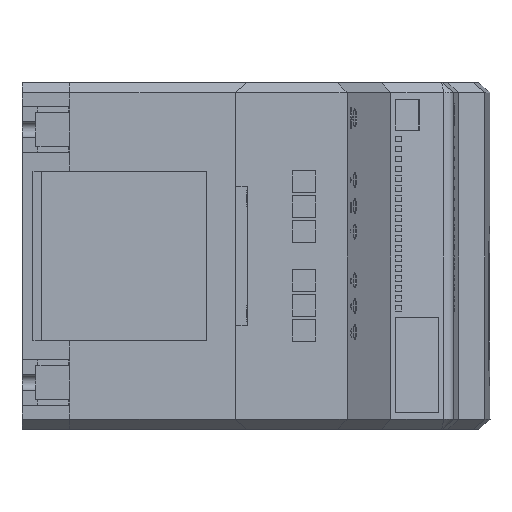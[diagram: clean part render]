
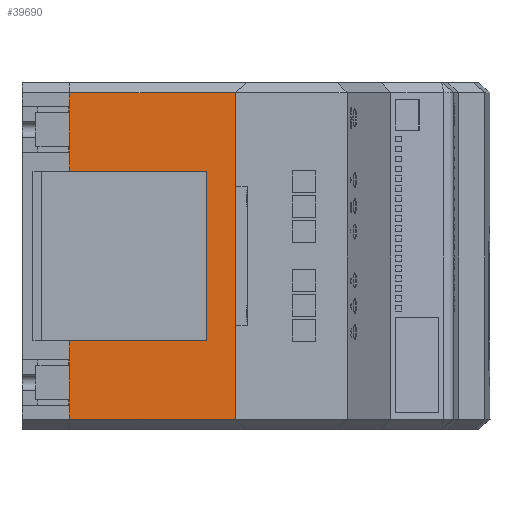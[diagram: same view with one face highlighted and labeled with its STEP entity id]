
A CAD part, front view. The second image highlights one B-rep face of the part: STEP entity #39690.
In plain terms, the highlighted planar face has unit normal (0.035, -0.999, 0).
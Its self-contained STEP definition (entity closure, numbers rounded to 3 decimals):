
#54 = LINE ( 'NONE', #1290, #8413 ) ;
#710 = VERTEX_POINT ( 'NONE', #2385 ) ;
#740 = VECTOR ( 'NONE', #37868, 1000. ) ;
#1290 = CARTESIAN_POINT ( 'NONE',  ( 12.664, -169.832, 174. ) ) ;
#1642 = FACE_OUTER_BOUND ( 'NONE', #42820, .T. ) ;
#2069 = ORIENTED_EDGE ( 'NONE', *, *, #31695, .T. ) ;
#2157 = VERTEX_POINT ( 'NONE', #44939 ) ;
#2208 = ORIENTED_EDGE ( 'NONE', *, *, #42276, .T. ) ;
#2385 = CARTESIAN_POINT ( 'NONE',  ( -70.348, -172.731, 44.5 ) ) ;
#2537 = DIRECTION ( 'NONE',  ( -0.999, -0.035, 0. ) ) ;
#2858 = VERTEX_POINT ( 'NONE', #10855 ) ;
#2924 = CARTESIAN_POINT ( 'NONE',  ( 12.664, -169.832, 5. ) ) ;
#3483 = ORIENTED_EDGE ( 'NONE', *, *, #6343, .F. ) ;
#3620 = LINE ( 'NONE', #17236, #36371 ) ;
#3946 = CARTESIAN_POINT ( 'NONE',  ( -70.348, -172.731, 35. ) ) ;
#4326 = LINE ( 'NONE', #40614, #7084 ) ;
#4769 = DIRECTION ( 'NONE',  ( -0.999, -0.035, 0. ) ) ;
#4948 = ORIENTED_EDGE ( 'NONE', *, *, #40798, .F. ) ;
#4982 = DIRECTION ( 'NONE',  ( -0.999, -0.035, 0. ) ) ;
#5017 = DIRECTION ( 'NONE',  ( 0., 0., 1. ) ) ;
#5619 = CARTESIAN_POINT ( 'NONE',  ( -70.348, -172.731, 174. ) ) ;
#6213 = CARTESIAN_POINT ( 'NONE',  ( -70.348, -172.731, 129.5 ) ) ;
#6259 = DIRECTION ( 'NONE',  ( 0.999, 0.035, 0. ) ) ;
#6343 = EDGE_CURVE ( 'NONE', #13198, #23270, #25503, .T. ) ;
#6379 = VERTEX_POINT ( 'NONE', #10740 ) ;
#6391 = CARTESIAN_POINT ( 'NONE',  ( -70.348, -172.731, 159. ) ) ;
#7084 = VECTOR ( 'NONE', #5017, 1000. ) ;
#7107 = VECTOR ( 'NONE', #12590, 1000. ) ;
#8038 = EDGE_CURVE ( 'NONE', #19009, #25822, #42024, .T. ) ;
#8233 = LINE ( 'NONE', #5619, #7107 ) ;
#8413 = VECTOR ( 'NONE', #12307, 1000. ) ;
#8941 = EDGE_CURVE ( 'NONE', #31833, #6379, #4326, .T. ) ;
#9321 = VECTOR ( 'NONE', #12444, 1000. ) ;
#9378 = VERTEX_POINT ( 'NONE', #35461 ) ;
#9515 = DIRECTION ( 'NONE',  ( -0.035, 0.999, 0. ) ) ;
#9668 = CARTESIAN_POINT ( 'NONE',  ( -70.348, -172.731, 44.5 ) ) ;
#9988 = CARTESIAN_POINT ( 'NONE',  ( -70.348, -172.731, 174. ) ) ;
#10740 = CARTESIAN_POINT ( 'NONE',  ( -1.863, -170.339, 129.5 ) ) ;
#10855 = CARTESIAN_POINT ( 'NONE',  ( -70.348, -172.731, 32. ) ) ;
#11290 = VECTOR ( 'NONE', #26174, 1000. ) ;
#11986 = DIRECTION ( 'NONE',  ( 0., 0., 1. ) ) ;
#12085 = AXIS2_PLACEMENT_3D ( 'NONE', #9988, #9515, #2537 ) ;
#12307 = DIRECTION ( 'NONE',  ( 0., 0., -1. ) ) ;
#12444 = DIRECTION ( 'NONE',  ( 0., 0., -1. ) ) ;
#12590 = DIRECTION ( 'NONE',  ( 0., 0., -1. ) ) ;
#13113 = ORIENTED_EDGE ( 'NONE', *, *, #18697, .T. ) ;
#13198 = VERTEX_POINT ( 'NONE', #26392 ) ;
#14253 = CARTESIAN_POINT ( 'NONE',  ( -70.348, -172.731, 174. ) ) ;
#14454 = DIRECTION ( 'NONE',  ( 0., 0., 1. ) ) ;
#15383 = ORIENTED_EDGE ( 'NONE', *, *, #8941, .F. ) ;
#15976 = EDGE_CURVE ( 'NONE', #9378, #19353, #44809, .T. ) ;
#16699 = DIRECTION ( 'NONE',  ( 0.999, 0.035, 0. ) ) ;
#17236 = CARTESIAN_POINT ( 'NONE',  ( -70.348, -172.731, 174. ) ) ;
#18150 = EDGE_CURVE ( 'NONE', #28431, #44273, #27550, .T. ) ;
#18165 = CARTESIAN_POINT ( 'NONE',  ( -70.348, -172.731, 174. ) ) ;
#18202 = EDGE_CURVE ( 'NONE', #25822, #28431, #8233, .T. ) ;
#18273 = VECTOR ( 'NONE', #6259, 1000. ) ;
#18697 = EDGE_CURVE ( 'NONE', #2858, #28694, #36416, .T. ) ;
#18939 = ORIENTED_EDGE ( 'NONE', *, *, #23274, .F. ) ;
#19009 = VERTEX_POINT ( 'NONE', #6391 ) ;
#19353 = VERTEX_POINT ( 'NONE', #25859 ) ;
#21732 = CARTESIAN_POINT ( 'NONE',  ( -70.348, -172.731, 139. ) ) ;
#23163 = VECTOR ( 'NONE', #39446, 1000. ) ;
#23187 = VERTEX_POINT ( 'NONE', #3946 ) ;
#23270 = VERTEX_POINT ( 'NONE', #33187 ) ;
#23274 = EDGE_CURVE ( 'NONE', #27786, #31833, #26669, .T. ) ;
#23515 = CARTESIAN_POINT ( 'NONE',  ( -70.348, -172.731, 162. ) ) ;
#23646 = EDGE_CURVE ( 'NONE', #23187, #2858, #43455, .T. ) ;
#25313 = EDGE_CURVE ( 'NONE', #40169, #19009, #39508, .T. ) ;
#25503 = LINE ( 'NONE', #18165, #26621 ) ;
#25822 = VERTEX_POINT ( 'NONE', #32932 ) ;
#25859 = CARTESIAN_POINT ( 'NONE',  ( -70.348, -172.731, 169. ) ) ;
#25957 = CARTESIAN_POINT ( 'NONE',  ( -70.348, -172.731, 129.5 ) ) ;
#26174 = DIRECTION ( 'NONE',  ( 0., 0., -1. ) ) ;
#26392 = CARTESIAN_POINT ( 'NONE',  ( -70.348, -172.731, 5. ) ) ;
#26621 = VECTOR ( 'NONE', #14454, 1000. ) ;
#26669 = LINE ( 'NONE', #39847, #41079 ) ;
#26842 = ORIENTED_EDGE ( 'NONE', *, *, #23646, .T. ) ;
#27286 = EDGE_CURVE ( 'NONE', #9378, #2157, #54, .T. ) ;
#27550 = LINE ( 'NONE', #37355, #9321 ) ;
#27568 = VECTOR ( 'NONE', #34983, 1000. ) ;
#27786 = VERTEX_POINT ( 'NONE', #41032 ) ;
#27836 = EDGE_CURVE ( 'NONE', #13198, #2157, #45517, .T. ) ;
#28234 = ORIENTED_EDGE ( 'NONE', *, *, #25313, .T. ) ;
#28431 = VERTEX_POINT ( 'NONE', #21732 ) ;
#28685 = ORIENTED_EDGE ( 'NONE', *, *, #44943, .T. ) ;
#28694 = VERTEX_POINT ( 'NONE', #45881 ) ;
#28797 = LINE ( 'NONE', #25957, #33244 ) ;
#29117 = ORIENTED_EDGE ( 'NONE', *, *, #27286, .F. ) ;
#30296 = LINE ( 'NONE', #44863, #41370 ) ;
#31000 = DIRECTION ( 'NONE',  ( 0., 0., -1. ) ) ;
#31173 = PLANE ( 'NONE',  #12085 ) ;
#31695 = EDGE_CURVE ( 'NONE', #28694, #23270, #30296, .T. ) ;
#31833 = VERTEX_POINT ( 'NONE', #37732 ) ;
#32020 = ORIENTED_EDGE ( 'NONE', *, *, #27836, .T. ) ;
#32035 = CARTESIAN_POINT ( 'NONE',  ( -70.348, -172.731, 174. ) ) ;
#32219 = CARTESIAN_POINT ( 'NONE',  ( -70.348, -172.731, 174. ) ) ;
#32932 = CARTESIAN_POINT ( 'NONE',  ( -70.348, -172.731, 142. ) ) ;
#33074 = VECTOR ( 'NONE', #35352, 1000. ) ;
#33187 = CARTESIAN_POINT ( 'NONE',  ( -70.348, -172.731, 12. ) ) ;
#33244 = VECTOR ( 'NONE', #4769, 1000. ) ;
#33446 = ORIENTED_EDGE ( 'NONE', *, *, #15976, .T. ) ;
#33826 = ORIENTED_EDGE ( 'NONE', *, *, #18202, .T. ) ;
#34983 = DIRECTION ( 'NONE',  ( 0., 0., -1. ) ) ;
#35352 = DIRECTION ( 'NONE',  ( 0., 0., -1. ) ) ;
#35370 = VECTOR ( 'NONE', #4982, 1000. ) ;
#35461 = CARTESIAN_POINT ( 'NONE',  ( 12.664, -169.832, 169. ) ) ;
#36371 = VECTOR ( 'NONE', #31000, 1000. ) ;
#36416 = LINE ( 'NONE', #45914, #33074 ) ;
#37355 = CARTESIAN_POINT ( 'NONE',  ( -70.348, -172.731, 174. ) ) ;
#37722 = CARTESIAN_POINT ( 'NONE',  ( -70.348, -172.731, 174. ) ) ;
#37732 = CARTESIAN_POINT ( 'NONE',  ( -1.863, -170.339, 44.5 ) ) ;
#37868 = DIRECTION ( 'NONE',  ( 0., 0., -1. ) ) ;
#39446 = DIRECTION ( 'NONE',  ( 0., 0., -1. ) ) ;
#39508 = LINE ( 'NONE', #37722, #740 ) ;
#39606 = EDGE_CURVE ( 'NONE', #710, #27786, #41545, .T. ) ;
#39690 = ADVANCED_FACE ( 'NONE', ( #1642 ), #31173, .F. ) ;
#39794 = LINE ( 'NONE', #14253, #27568 ) ;
#39847 = CARTESIAN_POINT ( 'NONE',  ( -1.863, -170.339, 174. ) ) ;
#40169 = VERTEX_POINT ( 'NONE', #23515 ) ;
#40614 = CARTESIAN_POINT ( 'NONE',  ( -1.863, -170.339, 129.5 ) ) ;
#40798 = EDGE_CURVE ( 'NONE', #6379, #44273, #28797, .T. ) ;
#41032 = CARTESIAN_POINT ( 'NONE',  ( -1.863, -170.339, 44.5 ) ) ;
#41079 = VECTOR ( 'NONE', #11986, 1000. ) ;
#41370 = VECTOR ( 'NONE', #41447, 1000. ) ;
#41447 = DIRECTION ( 'NONE',  ( 0., 0., -1. ) ) ;
#41545 = LINE ( 'NONE', #9668, #18273 ) ;
#41610 = ORIENTED_EDGE ( 'NONE', *, *, #18150, .T. ) ;
#42024 = LINE ( 'NONE', #32035, #23163 ) ;
#42276 = EDGE_CURVE ( 'NONE', #710, #23187, #39794, .T. ) ;
#42342 = ORIENTED_EDGE ( 'NONE', *, *, #39606, .F. ) ;
#42748 = VECTOR ( 'NONE', #16699, 1000. ) ;
#42820 = EDGE_LOOP ( 'NONE', ( #3483, #32020, #29117, #33446, #28685, #28234, #45163, #33826, #41610, #4948, #15383, #18939, #42342, #2208, #26842, #13113, #2069 ) ) ;
#43455 = LINE ( 'NONE', #32219, #11290 ) ;
#43859 = CARTESIAN_POINT ( 'NONE',  ( -70.348, -172.731, 169. ) ) ;
#44273 = VERTEX_POINT ( 'NONE', #6213 ) ;
#44809 = LINE ( 'NONE', #43859, #35370 ) ;
#44863 = CARTESIAN_POINT ( 'NONE',  ( -70.348, -172.731, 174. ) ) ;
#44939 = CARTESIAN_POINT ( 'NONE',  ( 12.664, -169.832, 5. ) ) ;
#44943 = EDGE_CURVE ( 'NONE', #19353, #40169, #3620, .T. ) ;
#45163 = ORIENTED_EDGE ( 'NONE', *, *, #8038, .T. ) ;
#45517 = LINE ( 'NONE', #2924, #42748 ) ;
#45881 = CARTESIAN_POINT ( 'NONE',  ( -70.348, -172.731, 15. ) ) ;
#45914 = CARTESIAN_POINT ( 'NONE',  ( -70.348, -172.731, 174. ) ) ;
